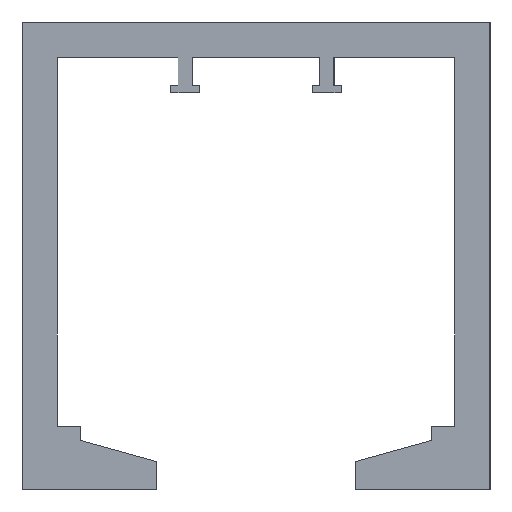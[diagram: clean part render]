
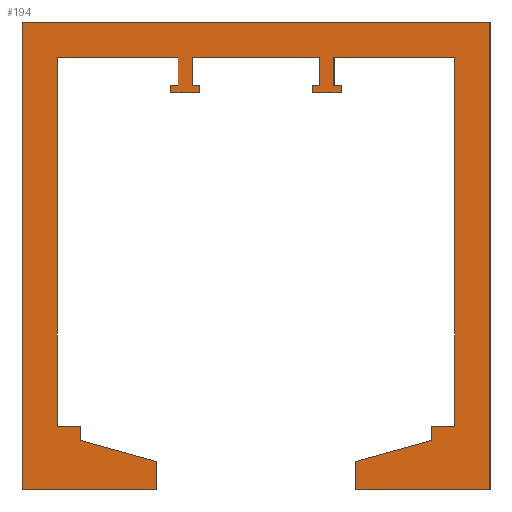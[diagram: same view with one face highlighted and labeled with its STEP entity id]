
A CAD part, left-side view. The second image highlights one B-rep face of the part: STEP entity #194.
In plain terms, the highlighted planar face has unit normal (-1, 0, 0).
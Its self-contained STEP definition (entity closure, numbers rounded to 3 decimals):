
#194=ADVANCED_FACE('',(#414),#415,.F.);
#414=FACE_OUTER_BOUND('',#653,.T.);
#415=PLANE('',#654);
#653=EDGE_LOOP('',(#1161,#1162,#1163,#1164,#1165,#1166,#1167,#1168,#1169,#1170,#1171,#1172,#1173,#1174,#1175,#1176,#1177,#1178,#1179,#1180,#1181,#1182,#1183,#1184,#1185,#1186,#1187,#1188,#1189,#1190,#1191,#1192,#1193,#1194,#1195,#1196));
#654=AXIS2_PLACEMENT_3D('',#1197,#1198,#1199);
#1161=ORIENTED_EDGE('',*,*,#1626,.T.);
#1162=ORIENTED_EDGE('',*,*,#1643,.T.);
#1163=ORIENTED_EDGE('',*,*,#1644,.T.);
#1164=ORIENTED_EDGE('',*,*,#1635,.T.);
#1165=ORIENTED_EDGE('',*,*,#1645,.F.);
#1166=ORIENTED_EDGE('',*,*,#1521,.T.);
#1167=ORIENTED_EDGE('',*,*,#1591,.T.);
#1168=ORIENTED_EDGE('',*,*,#1596,.F.);
#1169=ORIENTED_EDGE('',*,*,#1585,.F.);
#1170=ORIENTED_EDGE('',*,*,#1616,.T.);
#1171=ORIENTED_EDGE('',*,*,#1646,.T.);
#1172=ORIENTED_EDGE('',*,*,#1647,.T.);
#1173=ORIENTED_EDGE('',*,*,#1648,.T.);
#1174=ORIENTED_EDGE('',*,*,#1649,.T.);
#1175=ORIENTED_EDGE('',*,*,#1650,.T.);
#1176=ORIENTED_EDGE('',*,*,#1651,.T.);
#1177=ORIENTED_EDGE('',*,*,#1652,.F.);
#1178=ORIENTED_EDGE('',*,*,#1653,.T.);
#1179=ORIENTED_EDGE('',*,*,#1654,.T.);
#1180=ORIENTED_EDGE('',*,*,#1655,.T.);
#1181=ORIENTED_EDGE('',*,*,#1656,.T.);
#1182=ORIENTED_EDGE('',*,*,#1657,.T.);
#1183=ORIENTED_EDGE('',*,*,#1658,.T.);
#1184=ORIENTED_EDGE('',*,*,#1659,.T.);
#1185=ORIENTED_EDGE('',*,*,#1660,.F.);
#1186=ORIENTED_EDGE('',*,*,#1638,.F.);
#1187=ORIENTED_EDGE('',*,*,#1661,.F.);
#1188=ORIENTED_EDGE('',*,*,#1662,.T.);
#1189=ORIENTED_EDGE('',*,*,#1621,.T.);
#1190=ORIENTED_EDGE('',*,*,#1663,.F.);
#1191=ORIENTED_EDGE('',*,*,#1664,.F.);
#1192=ORIENTED_EDGE('',*,*,#1665,.F.);
#1193=ORIENTED_EDGE('',*,*,#1666,.T.);
#1194=ORIENTED_EDGE('',*,*,#1667,.T.);
#1195=ORIENTED_EDGE('',*,*,#1668,.T.);
#1196=ORIENTED_EDGE('',*,*,#1629,.T.);
#1197=CARTESIAN_POINT('',(0.0,5.0,-3.5));
#1198=DIRECTION('',(1.0,0.0,0.0));
#1199=DIRECTION('',(0.0,0.0,-1.0));
#1521=EDGE_CURVE('',#1841,#1839,#1842,.T.);
#1585=EDGE_CURVE('',#1933,#1936,#1937,.T.);
#1591=EDGE_CURVE('',#1839,#1944,#1946,.T.);
#1596=EDGE_CURVE('',#1936,#1944,#1953,.T.);
#1616=EDGE_CURVE('',#1933,#1976,#1978,.T.);
#1621=EDGE_CURVE('',#1986,#1984,#1987,.T.);
#1626=EDGE_CURVE('',#1995,#1993,#1996,.T.);
#1629=EDGE_CURVE('',#1999,#1995,#2000,.T.);
#1635=EDGE_CURVE('',#2010,#2008,#2011,.T.);
#1638=EDGE_CURVE('',#2014,#2015,#2016,.T.);
#1643=EDGE_CURVE('',#1993,#2023,#2024,.T.);
#1644=EDGE_CURVE('',#2023,#2010,#2025,.T.);
#1645=EDGE_CURVE('',#1841,#2008,#2026,.T.);
#1646=EDGE_CURVE('',#1976,#2027,#2028,.T.);
#1647=EDGE_CURVE('',#2027,#2029,#2030,.T.);
#1648=EDGE_CURVE('',#2029,#2031,#2032,.T.);
#1649=EDGE_CURVE('',#2031,#2033,#2034,.T.);
#1650=EDGE_CURVE('',#2033,#2035,#2036,.T.);
#1651=EDGE_CURVE('',#2035,#2037,#2038,.T.);
#1652=EDGE_CURVE('',#2039,#2037,#2040,.T.);
#1653=EDGE_CURVE('',#2039,#2041,#2042,.T.);
#1654=EDGE_CURVE('',#2041,#2043,#2044,.T.);
#1655=EDGE_CURVE('',#2043,#2045,#2046,.T.);
#1656=EDGE_CURVE('',#2045,#2047,#2048,.T.);
#1657=EDGE_CURVE('',#2047,#2049,#2050,.T.);
#1658=EDGE_CURVE('',#2049,#2051,#2052,.T.);
#1659=EDGE_CURVE('',#2051,#2053,#2054,.T.);
#1660=EDGE_CURVE('',#2015,#2053,#2055,.T.);
#1661=EDGE_CURVE('',#2056,#2014,#2057,.T.);
#1662=EDGE_CURVE('',#2056,#1986,#2058,.T.);
#1663=EDGE_CURVE('',#2059,#1984,#2060,.T.);
#1664=EDGE_CURVE('',#2061,#2059,#2062,.T.);
#1665=EDGE_CURVE('',#2063,#2061,#2064,.T.);
#1666=EDGE_CURVE('',#2063,#2065,#2066,.T.);
#1667=EDGE_CURVE('',#2065,#2067,#2068,.T.);
#1668=EDGE_CURVE('',#2067,#1999,#2069,.T.);
#1839=VERTEX_POINT('',#2293);
#1841=VERTEX_POINT('',#2295);
#1842=LINE('',#2296,#2297);
#1933=VERTEX_POINT('',#2416);
#1936=VERTEX_POINT('',#2419);
#1937=LINE('',#2420,#2421);
#1944=VERTEX_POINT('',#2430);
#1946=LINE('',#2432,#2433);
#1953=LINE('',#2441,#2442);
#1976=VERTEX_POINT('',#2472);
#1978=LINE('',#2475,#2476);
#1984=VERTEX_POINT('',#2483);
#1986=VERTEX_POINT('',#2486);
#1987=LINE('',#2487,#2488);
#1993=VERTEX_POINT('',#2496);
#1995=VERTEX_POINT('',#2499);
#1996=LINE('',#2500,#2501);
#1999=VERTEX_POINT('',#2505);
#2000=LINE('',#2506,#2507);
#2008=VERTEX_POINT('',#2518);
#2010=VERTEX_POINT('',#2521);
#2011=LINE('',#2522,#2523);
#2014=VERTEX_POINT('',#2527);
#2015=VERTEX_POINT('',#2528);
#2016=LINE('',#2529,#2530);
#2023=VERTEX_POINT('',#2540);
#2024=LINE('',#2541,#2542);
#2025=LINE('',#2543,#2544);
#2026=LINE('',#2545,#2546);
#2027=VERTEX_POINT('',#2547);
#2028=LINE('',#2548,#2549);
#2029=VERTEX_POINT('',#2550);
#2030=LINE('',#2551,#2552);
#2031=VERTEX_POINT('',#2553);
#2032=LINE('',#2554,#2555);
#2033=VERTEX_POINT('',#2556);
#2034=LINE('',#2557,#2558);
#2035=VERTEX_POINT('',#2559);
#2036=LINE('',#2560,#2561);
#2037=VERTEX_POINT('',#2562);
#2038=LINE('',#2563,#2564);
#2039=VERTEX_POINT('',#2565);
#2040=LINE('',#2566,#2567);
#2041=VERTEX_POINT('',#2568);
#2042=LINE('',#2569,#2570);
#2043=VERTEX_POINT('',#2571);
#2044=LINE('',#2572,#2573);
#2045=VERTEX_POINT('',#2574);
#2046=LINE('',#2575,#2576);
#2047=VERTEX_POINT('',#2577);
#2048=LINE('',#2578,#2579);
#2049=VERTEX_POINT('',#2580);
#2050=LINE('',#2581,#2582);
#2051=VERTEX_POINT('',#2583);
#2052=LINE('',#2584,#2585);
#2053=VERTEX_POINT('',#2586);
#2054=LINE('',#2587,#2588);
#2055=LINE('',#2589,#2590);
#2056=VERTEX_POINT('',#2591);
#2057=LINE('',#2592,#2593);
#2058=LINE('',#2594,#2595);
#2059=VERTEX_POINT('',#2596);
#2060=LINE('',#2597,#2598);
#2061=VERTEX_POINT('',#2599);
#2062=LINE('',#2600,#2601);
#2063=VERTEX_POINT('',#2602);
#2064=LINE('',#2603,#2604);
#2065=VERTEX_POINT('',#2605);
#2066=LINE('',#2606,#2607);
#2067=VERTEX_POINT('',#2608);
#2068=LINE('',#2609,#2610);
#2069=LINE('',#2611,#2612);
#2293=CARTESIAN_POINT('',(0.,5.5,-4.495));
#2295=CARTESIAN_POINT('',(0.0,5.5,-2.5));
#2296=CARTESIAN_POINT('',(0.0,5.5,-2.5));
#2297=VECTOR('',#2833,1.0);
#2416=CARTESIAN_POINT('',(0.,5.5,-4.497));
#2419=CARTESIAN_POINT('',(0.,5.505,-4.497));
#2420=CARTESIAN_POINT('',(0.,5.5,-4.497));
#2421=VECTOR('',#2913,1.0);
#2430=CARTESIAN_POINT('',(0.,5.505,-4.495));
#2432=CARTESIAN_POINT('',(0.,5.5,-4.495));
#2433=VECTOR('',#2922,1.0);
#2441=CARTESIAN_POINT('',(0.,5.505,-4.497));
#2442=VECTOR('',#2930,1.0);
#2472=CARTESIAN_POINT('',(0.0,5.5,-4.5));
#2475=CARTESIAN_POINT('',(0.0,5.5,-2.5));
#2476=VECTOR('',#2951,1.0);
#2483=CARTESIAN_POINT('',(0.0,-7.0,-31.0));
#2486=CARTESIAN_POINT('',(0.0,-12.375,-29.5));
#2487=CARTESIAN_POINT('',(0.0,-4.993,-31.56));
#2488=VECTOR('',#2954,1.0);
#2496=CARTESIAN_POINT('',(0.0,12.375,-29.5));
#2499=CARTESIAN_POINT('',(0.0,7.0,-31.0));
#2500=CARTESIAN_POINT('',(0.0,12.32,-29.515));
#2501=VECTOR('',#2958,1.0);
#2505=CARTESIAN_POINT('',(0.0,7.0,-33.0));
#2506=CARTESIAN_POINT('',(0.0,7.0,-33.0));
#2507=VECTOR('',#2960,1.0);
#2518=CARTESIAN_POINT('',(0.0,14.0,-2.5));
#2521=CARTESIAN_POINT('',(0.0,14.0,-28.5));
#2522=CARTESIAN_POINT('',(0.0,14.0,-28.5));
#2523=VECTOR('',#2965,1.0);
#2527=CARTESIAN_POINT('',(0.0,-14.0,-28.5));
#2528=CARTESIAN_POINT('',(0.0,-14.0,-2.5));
#2529=CARTESIAN_POINT('',(0.0,-14.0,-28.5));
#2530=VECTOR('',#2967,1.0);
#2540=CARTESIAN_POINT('',(0.0,12.375,-28.5));
#2541=CARTESIAN_POINT('',(0.0,12.375,-29.26));
#2542=VECTOR('',#2971,1.0);
#2543=CARTESIAN_POINT('',(0.0,12.375,-28.5));
#2544=VECTOR('',#2972,1.0);
#2545=CARTESIAN_POINT('',(0.0,-14.0,-2.5));
#2546=VECTOR('',#2973,1.0);
#2547=CARTESIAN_POINT('',(0.0,6.0,-4.5));
#2548=CARTESIAN_POINT('',(0.0,4.0,-4.5));
#2549=VECTOR('',#2974,1.0);
#2550=CARTESIAN_POINT('',(0.0,6.0,-5.0));
#2551=CARTESIAN_POINT('',(0.0,6.0,-4.5));
#2552=VECTOR('',#2975,1.0);
#2553=CARTESIAN_POINT('',(0.0,4.0,-5.0));
#2554=CARTESIAN_POINT('',(0.0,6.0,-5.0));
#2555=VECTOR('',#2976,1.0);
#2556=CARTESIAN_POINT('',(0.0,4.0,-4.5));
#2557=CARTESIAN_POINT('',(0.0,4.0,-5.0));
#2558=VECTOR('',#2977,1.0);
#2559=CARTESIAN_POINT('',(0.0,4.5,-4.5));
#2560=CARTESIAN_POINT('',(0.0,4.0,-4.5));
#2561=VECTOR('',#2978,1.0);
#2562=CARTESIAN_POINT('',(0.0,4.5,-2.5));
#2563=CARTESIAN_POINT('',(0.0,4.5,-4.5));
#2564=VECTOR('',#2979,1.0);
#2565=CARTESIAN_POINT('',(0.0,-4.5,-2.5));
#2566=CARTESIAN_POINT('',(0.0,-14.0,-2.5));
#2567=VECTOR('',#2980,1.0);
#2568=CARTESIAN_POINT('',(0.0,-4.5,-4.5));
#2569=CARTESIAN_POINT('',(0.0,-4.5,-2.5));
#2570=VECTOR('',#2981,1.0);
#2571=CARTESIAN_POINT('',(0.0,-4.0,-4.5));
#2572=CARTESIAN_POINT('',(0.0,-6.0,-4.5));
#2573=VECTOR('',#2982,1.0);
#2574=CARTESIAN_POINT('',(0.0,-4.0,-5.0));
#2575=CARTESIAN_POINT('',(0.0,-4.0,-4.5));
#2576=VECTOR('',#2983,1.0);
#2577=CARTESIAN_POINT('',(0.0,-6.0,-5.0));
#2578=CARTESIAN_POINT('',(0.0,-4.0,-5.0));
#2579=VECTOR('',#2984,1.0);
#2580=CARTESIAN_POINT('',(0.0,-6.0,-4.5));
#2581=CARTESIAN_POINT('',(0.0,-6.0,-5.0));
#2582=VECTOR('',#2985,1.0);
#2583=CARTESIAN_POINT('',(0.0,-5.5,-4.5));
#2584=CARTESIAN_POINT('',(0.0,-6.0,-4.5));
#2585=VECTOR('',#2986,1.0);
#2586=CARTESIAN_POINT('',(0.0,-5.5,-2.5));
#2587=CARTESIAN_POINT('',(0.0,-5.5,-4.5));
#2588=VECTOR('',#2987,1.0);
#2589=CARTESIAN_POINT('',(0.0,-14.0,-2.5));
#2590=VECTOR('',#2988,1.0);
#2591=CARTESIAN_POINT('',(0.0,-12.375,-28.5));
#2592=CARTESIAN_POINT('',(0.0,-12.375,-28.5));
#2593=VECTOR('',#2989,1.0);
#2594=CARTESIAN_POINT('',(0.0,-12.375,-16.5));
#2595=VECTOR('',#2990,1.0);
#2596=CARTESIAN_POINT('',(0.0,-7.0,-33.0));
#2597=CARTESIAN_POINT('',(0.0,-7.0,-33.0));
#2598=VECTOR('',#2991,1.0);
#2599=CARTESIAN_POINT('',(0.0,-16.5,-33.0));
#2600=CARTESIAN_POINT('',(0.0,-16.5,-33.0));
#2601=VECTOR('',#2992,1.0);
#2602=CARTESIAN_POINT('',(0.0,-16.5,0.0));
#2603=CARTESIAN_POINT('',(0.0,-16.5,0.0));
#2604=VECTOR('',#2993,1.0);
#2605=CARTESIAN_POINT('',(0.0,16.5,0.0));
#2606=CARTESIAN_POINT('',(0.0,0.0,0.0));
#2607=VECTOR('',#2994,1.0);
#2608=CARTESIAN_POINT('',(0.0,16.5,-33.0));
#2609=CARTESIAN_POINT('',(0.0,16.5,0.0));
#2610=VECTOR('',#2995,1.0);
#2611=CARTESIAN_POINT('',(0.0,16.5,-33.0));
#2612=VECTOR('',#2996,1.0);
#2833=DIRECTION('',(0.0,0.0,-1.0));
#2913=DIRECTION('',(0.0,1.0,0.));
#2922=DIRECTION('',(0.0,1.0,0.));
#2930=DIRECTION('',(0.,0.,1.0));
#2951=DIRECTION('',(0.0,0.0,-1.0));
#2954=DIRECTION('',(0.0,0.963,-0.269));
#2958=DIRECTION('',(0.0,0.963,0.269));
#2960=DIRECTION('',(0.0,0.0,1.0));
#2965=DIRECTION('',(0.0,0.0,1.0));
#2967=DIRECTION('',(0.0,0.0,1.0));
#2971=DIRECTION('',(0.0,0.0,1.0));
#2972=DIRECTION('',(0.0,1.0,0.0));
#2973=DIRECTION('',(0.0,1.0,0.0));
#2974=DIRECTION('',(0.0,1.0,0.0));
#2975=DIRECTION('',(0.0,0.0,-1.0));
#2976=DIRECTION('',(0.0,-1.0,0.0));
#2977=DIRECTION('',(0.0,0.0,1.0));
#2978=DIRECTION('',(0.0,1.0,0.0));
#2979=DIRECTION('',(0.0,0.0,1.0));
#2980=DIRECTION('',(0.0,1.0,0.0));
#2981=DIRECTION('',(0.0,0.0,-1.0));
#2982=DIRECTION('',(0.0,1.0,0.0));
#2983=DIRECTION('',(0.0,0.0,-1.0));
#2984=DIRECTION('',(0.0,-1.0,0.0));
#2985=DIRECTION('',(0.0,0.0,1.0));
#2986=DIRECTION('',(0.0,1.0,0.0));
#2987=DIRECTION('',(0.0,0.0,1.0));
#2988=DIRECTION('',(0.0,1.0,0.0));
#2989=DIRECTION('',(0.0,-1.0,0.0));
#2990=DIRECTION('',(0.0,0.0,-1.0));
#2991=DIRECTION('',(0.0,0.0,1.0));
#2992=DIRECTION('',(0.0,1.0,0.0));
#2993=DIRECTION('',(0.0,0.0,-1.0));
#2994=DIRECTION('',(0.0,1.0,0.0));
#2995=DIRECTION('',(0.0,0.0,-1.0));
#2996=DIRECTION('',(0.0,-1.0,0.0));
